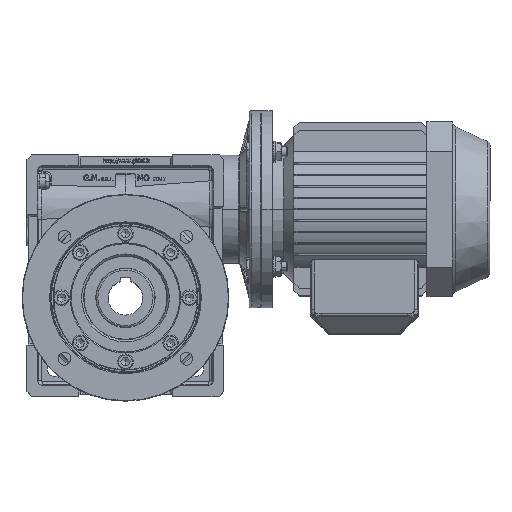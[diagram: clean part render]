
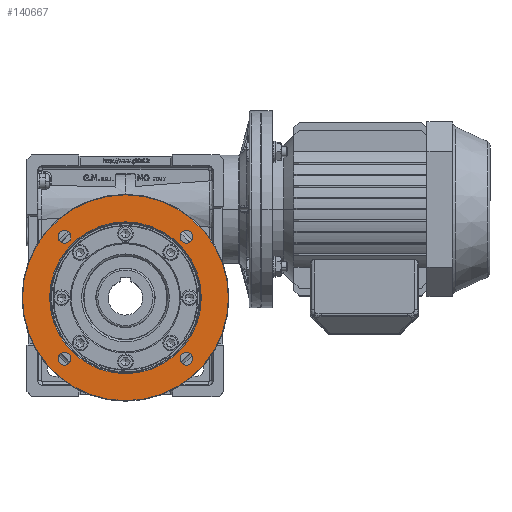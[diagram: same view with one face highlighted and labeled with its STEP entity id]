
A CAD part, top view. The second image highlights one B-rep face of the part: STEP entity #140667.
In plain terms, the highlighted planar face has unit normal (0, 0, 1) as drawn and (0, 0, -1) by its records, which use the part's own axes.
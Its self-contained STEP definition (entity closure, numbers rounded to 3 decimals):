
#139782=CARTESIAN_POINT('',(68.372,-61.872,0.0));
#139783=VERTEX_POINT('',#139782);
#139808=CARTESIAN_POINT('',(55.372,-61.872,0.0));
#139809=VERTEX_POINT('',#139808);
#139816=CARTESIAN_POINT('',(61.872,-61.872,0.0));
#139817=DIRECTION('',(0.0,0.0,1.0));
#139818=DIRECTION('',(1.0,0.0,0.0));
#139819=AXIS2_PLACEMENT_3D('',#139816,#139817,#139818);
#139820=CIRCLE('',#139819,6.5);
#139821=EDGE_CURVE('',#139783,#139809,#139820,.T.);
#139833=CARTESIAN_POINT('',(-61.872,-68.372,0.0));
#139834=VERTEX_POINT('',#139833);
#139859=CARTESIAN_POINT('',(-61.872,-55.372,0.0));
#139860=VERTEX_POINT('',#139859);
#139867=CARTESIAN_POINT('',(-61.872,-61.872,0.0));
#139868=DIRECTION('',(0.0,0.0,1.0));
#139869=DIRECTION('',(0.0,-1.0,0.0));
#139870=AXIS2_PLACEMENT_3D('',#139867,#139868,#139869);
#139871=CIRCLE('',#139870,6.5);
#139872=EDGE_CURVE('',#139834,#139860,#139871,.T.);
#139884=CARTESIAN_POINT('',(61.872,68.372,0.0));
#139885=VERTEX_POINT('',#139884);
#139901=CARTESIAN_POINT('',(61.872,55.372,0.0));
#139902=VERTEX_POINT('',#139901);
#139909=CARTESIAN_POINT('',(61.872,61.872,0.0));
#139910=DIRECTION('',(0.0,0.0,1.0));
#139911=DIRECTION('',(0.0,1.0,0.0));
#139912=AXIS2_PLACEMENT_3D('',#139909,#139910,#139911);
#139913=CIRCLE('',#139912,6.5);
#139914=EDGE_CURVE('',#139885,#139902,#139913,.T.);
#139926=CARTESIAN_POINT('',(-68.372,61.872,0.0));
#139927=VERTEX_POINT('',#139926);
#139952=CARTESIAN_POINT('',(-55.372,61.872,0.0));
#139953=VERTEX_POINT('',#139952);
#139960=CARTESIAN_POINT('',(-61.872,61.872,0.0));
#139961=DIRECTION('',(0.0,0.0,1.0));
#139962=DIRECTION('',(-1.0,0.0,0.0));
#139963=AXIS2_PLACEMENT_3D('',#139960,#139961,#139962);
#139964=CIRCLE('',#139963,6.5);
#139965=EDGE_CURVE('',#139927,#139953,#139964,.T.);
#140487=CARTESIAN_POINT('',(77.0,0.,0.0));
#140488=VERTEX_POINT('',#140487);
#140496=CARTESIAN_POINT('',(-77.0,0.,0.0));
#140497=VERTEX_POINT('',#140496);
#140504=CARTESIAN_POINT('',(0.0,0.0,0.0));
#140505=DIRECTION('',(0.0,0.0,-1.0));
#140506=DIRECTION('',(1.0,0.0,0.0));
#140507=AXIS2_PLACEMENT_3D('',#140504,#140505,#140506);
#140508=CIRCLE('',#140507,77.0);
#140509=EDGE_CURVE('',#140497,#140488,#140508,.T.);
#140557=CARTESIAN_POINT('',(-104.5,0.,0.0));
#140558=VERTEX_POINT('',#140557);
#140572=CARTESIAN_POINT('',(104.5,0.,0.0));
#140573=VERTEX_POINT('',#140572);
#140580=CARTESIAN_POINT('',(0.0,0.0,0.0));
#140581=DIRECTION('',(0.0,0.0,1.0));
#140582=DIRECTION('',(-1.0,0.0,0.0));
#140583=AXIS2_PLACEMENT_3D('',#140580,#140581,#140582);
#140584=CIRCLE('',#140583,104.5);
#140585=EDGE_CURVE('',#140573,#140558,#140584,.T.);
#140596=CARTESIAN_POINT('',(0.0,0.0,0.0));
#140597=DIRECTION('',(0.0,0.0,1.0));
#140598=DIRECTION('',(-1.0,0.0,0.0));
#140599=AXIS2_PLACEMENT_3D('',#140596,#140597,#140598);
#140600=CIRCLE('',#140599,104.5);
#140601=EDGE_CURVE('',#140558,#140573,#140600,.T.);
#140608=CARTESIAN_POINT('',(0.0,0.0,0.0));
#140609=DIRECTION('',(0.0,0.0,-1.0));
#140610=DIRECTION('',(-1.0,0.0,0.0));
#140611=AXIS2_PLACEMENT_3D('',#140608,#140609,#140610);
#140612=PLANE('',#140611);
#140613=ORIENTED_EDGE('',*,*,#140585,.F.);
#140614=ORIENTED_EDGE('',*,*,#140601,.F.);
#140615=EDGE_LOOP('',(#140613,#140614));
#140616=FACE_OUTER_BOUND('',#140615,.T.);
#140617=ORIENTED_EDGE('',*,*,#140509,.F.);
#140618=CARTESIAN_POINT('',(0.0,0.0,0.0));
#140619=DIRECTION('',(0.0,0.0,-1.0));
#140620=DIRECTION('',(1.0,0.0,0.0));
#140621=AXIS2_PLACEMENT_3D('',#140618,#140619,#140620);
#140622=CIRCLE('',#140621,77.0);
#140623=EDGE_CURVE('',#140488,#140497,#140622,.T.);
#140624=ORIENTED_EDGE('',*,*,#140623,.F.);
#140625=EDGE_LOOP('',(#140617,#140624));
#140626=FACE_BOUND('',#140625,.T.);
#140627=CARTESIAN_POINT('',(-61.872,61.872,0.0));
#140628=DIRECTION('',(0.0,0.0,1.0));
#140629=DIRECTION('',(-1.0,0.0,0.0));
#140630=AXIS2_PLACEMENT_3D('',#140627,#140628,#140629);
#140631=CIRCLE('',#140630,6.5);
#140632=EDGE_CURVE('',#139953,#139927,#140631,.T.);
#140633=ORIENTED_EDGE('',*,*,#140632,.T.);
#140634=ORIENTED_EDGE('',*,*,#139965,.T.);
#140635=EDGE_LOOP('',(#140633,#140634));
#140636=FACE_BOUND('',#140635,.T.);
#140637=CARTESIAN_POINT('',(61.872,61.872,0.0));
#140638=DIRECTION('',(0.0,0.0,1.0));
#140639=DIRECTION('',(0.0,1.0,0.0));
#140640=AXIS2_PLACEMENT_3D('',#140637,#140638,#140639);
#140641=CIRCLE('',#140640,6.5);
#140642=EDGE_CURVE('',#139902,#139885,#140641,.T.);
#140643=ORIENTED_EDGE('',*,*,#140642,.T.);
#140644=ORIENTED_EDGE('',*,*,#139914,.T.);
#140645=EDGE_LOOP('',(#140643,#140644));
#140646=FACE_BOUND('',#140645,.T.);
#140647=CARTESIAN_POINT('',(-61.872,-61.872,0.0));
#140648=DIRECTION('',(0.0,0.0,1.0));
#140649=DIRECTION('',(0.0,-1.0,0.0));
#140650=AXIS2_PLACEMENT_3D('',#140647,#140648,#140649);
#140651=CIRCLE('',#140650,6.5);
#140652=EDGE_CURVE('',#139860,#139834,#140651,.T.);
#140653=ORIENTED_EDGE('',*,*,#140652,.T.);
#140654=ORIENTED_EDGE('',*,*,#139872,.T.);
#140655=EDGE_LOOP('',(#140653,#140654));
#140656=FACE_BOUND('',#140655,.T.);
#140657=CARTESIAN_POINT('',(61.872,-61.872,0.0));
#140658=DIRECTION('',(0.0,0.0,1.0));
#140659=DIRECTION('',(1.0,0.0,0.0));
#140660=AXIS2_PLACEMENT_3D('',#140657,#140658,#140659);
#140661=CIRCLE('',#140660,6.5);
#140662=EDGE_CURVE('',#139809,#139783,#140661,.T.);
#140663=ORIENTED_EDGE('',*,*,#140662,.T.);
#140664=ORIENTED_EDGE('',*,*,#139821,.T.);
#140665=EDGE_LOOP('',(#140663,#140664));
#140666=FACE_BOUND('',#140665,.T.);
#140667=ADVANCED_FACE('',(#140616,#140626,#140636,#140646,#140656,#140666),#140612,.T.);
